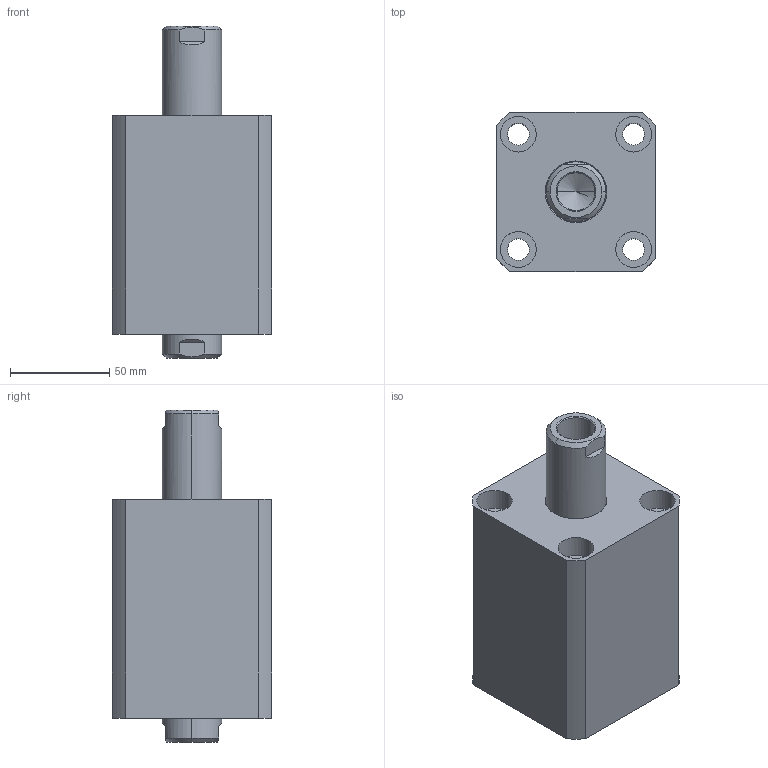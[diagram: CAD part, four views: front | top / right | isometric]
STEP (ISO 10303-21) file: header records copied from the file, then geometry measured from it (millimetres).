
FILE_DESCRIPTION (( 'STEP AP203' ), '1' );
FILE_NAME ('CHTB-SW50-35N.STEP', '2018-05-21T05:59:12', ( '' ), ( '' ), 'SwSTEP 2.0', 'SolidWorks 2015', '' );
FILE_SCHEMA (( 'CONFIG_CONTROL_DESIGN' ));
Length unit declared in the file: millimetre
Products named in the file (4): 活塞杆SW50-35N; ヶ裔; 掛极SW50-35N; CHTB-SW50-35N
Assembly tree (3 placements, depth 2):
  CHTB-SW50-35N
    掛极SW50-35N
    活塞杆SW50-35N
    ヶ裔
Bounding box: 80 x 80 x 167 mm (x, y, z)
Volume: 609479.5 mm3; surface area: 119685 mm2
Topology: 3 solids, 3 shells, 225 faces, 529 edges, 331 vertices
Faces by surface type: cylinder 118, plane 46, cone 33, torus 24, bspline 4
Entity records: 9704 total; most frequent: CARTESIAN_POINT 4236, DIRECTION 1106, ORIENTED_EDGE 1042, EDGE_CURVE 521, AXIS2_PLACEMENT_3D 463, VERTEX_POINT 331, EDGE_LOOP 270, CIRCLE 236
